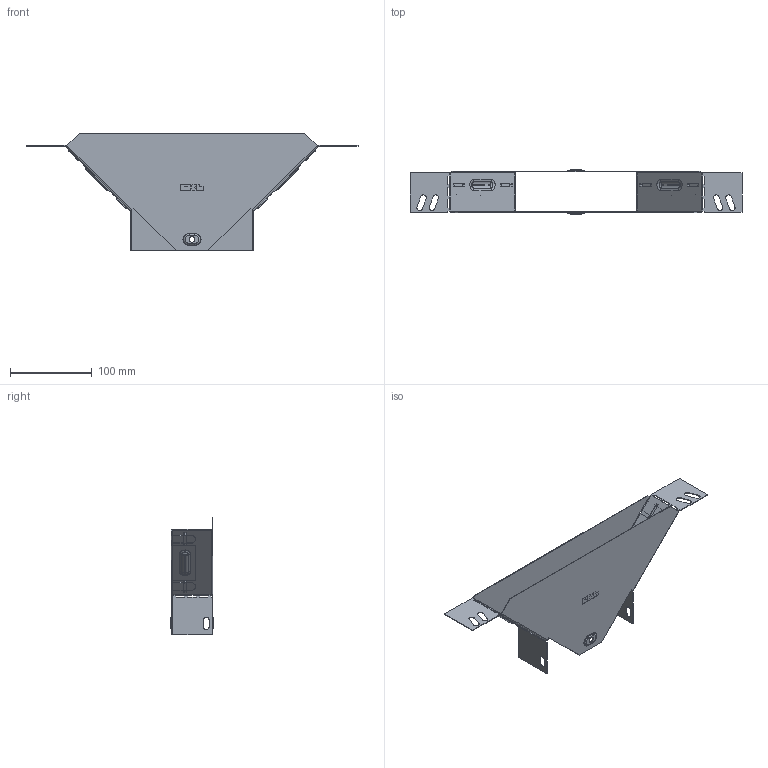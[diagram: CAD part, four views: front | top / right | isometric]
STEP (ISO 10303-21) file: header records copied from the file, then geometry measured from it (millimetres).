
FILE_DESCRIPTION (( 'STEP AP214' ), '1' );
FILE_NAME ('tn5015008_捘.STEP', '2019-06-10T07:57:45', ( '砐錪賧瘔蠈錪 Windows' ), ( '' ), 'SwSTEP 2.0', 'SolidWorks 2018', '' );
FILE_SCHEMA (( 'AUTOMOTIVE_DESIGN' ));
Length unit declared in the file: millimetre
Products named in the file (1): tn5015008_捘
Bounding box: 406.02 x 53.8 x 144 mm (x, y, z)
Volume: 61702.7 mm3; surface area: 156958.1 mm2
Topology: 2 solids, 2 shells, 572 faces, 1584 edges, 1008 vertices
Faces by surface type: plane 344, cylinder 162, torus 48, bspline 18
Entity records: 19059 total; most frequent: CARTESIAN_POINT 4123, ORIENTED_EDGE 3168, DIRECTION 3054, EDGE_CURVE 1584, VECTOR 1152, LINE 1152, VERTEX_POINT 1008, AXIS2_PLACEMENT_3D 951
